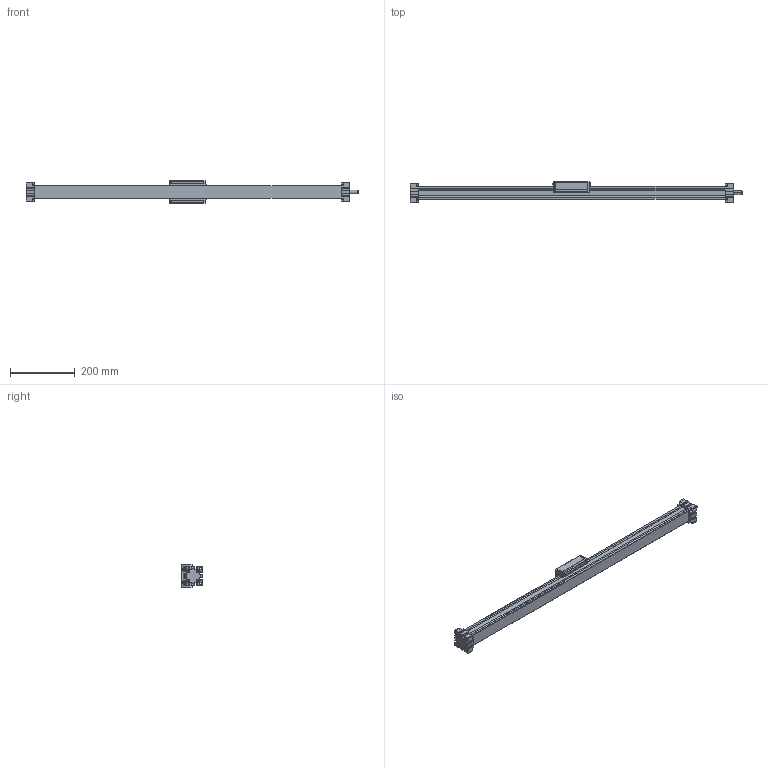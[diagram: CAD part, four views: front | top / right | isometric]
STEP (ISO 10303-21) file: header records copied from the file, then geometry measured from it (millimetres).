
FILE_DESCRIPTION (( 'STEP AP214' ), '1' );
FILE_NAME ('EGTK-40.STEP', '2016-01-14T07:57:24', ( 'admin' ), ( '' ), 'SwSTEP 2.0', 'SolidWorks 2015', '' );
FILE_SCHEMA (( 'AUTOMOTIVE_DESIGN' ));
Length unit declared in the file: millimetre
Products named in the file (6): Kopie von Bahr-EGT-EGK-EGT-40  1  0 0 0  0 0 0  669_EG40 Carriage^EGT(K)40 S0 A0_A; Kopie von Bahr-EGT-EGK-EGT-40  1  0 0 0  0 0 0  669_EGTK End Block 40 (B)^EGT(K)40 S0 A0_EGTK-40 End Block 0-0; Kopie von Bahr-EGT-EGK-EGT-40  1  0 0 0  0 0 0  669_EG40 Extrusion^EGT(K)40 S0 A0; Kopie von Bahr-EGT-EGK-EGT-40  1  0 0 0  0 0 0  669_EGTK End Block 40 (A)^EGT(K)40 S0 A0_EGTK-40 End Block 0-2; EGTK-40; Kopie von Bahr-EGT-EGK-EGT-40  1  0 0 0  0 0 0  669_Cover Band^EGT(K)40 S0 A0
Assembly tree (5 placements, depth 2):
  EGTK-40
    Kopie von Bahr-EGT-EGK-EGT-40  1  0 0 0  0 0 0  669_EGTK End Block 40 (A)^EGT(K)40 S0 A0_EGTK-40 End Block 0-2
    Kopie von Bahr-EGT-EGK-EGT-40  1  0 0 0  0 0 0  669_EG40 Extrusion^EGT(K)40 S0 A0
    Kopie von Bahr-EGT-EGK-EGT-40  1  0 0 0  0 0 0  669_EGTK End Block 40 (B)^EGT(K)40 S0 A0_EGTK-40 End Block 0-0
    Kopie von Bahr-EGT-EGK-EGT-40  1  0 0 0  0 0 0  669_EG40 Carriage^EGT(K)40 S0 A0_A
    Kopie von Bahr-EGT-EGK-EGT-40  1  0 0 0  0 0 0  669_Cover Band^EGT(K)40 S0 A0
Bounding box: 1026 x 64 x 70 mm (x, y, z)
Volume: 1738634.2 mm3; surface area: 275530.2 mm2
Topology: 7 solids, 7 shells, 912 faces, 2596 edges, 1707 vertices
Faces by surface type: plane 664, cylinder 201, cone 31, torus 16
Entity records: 30692 total; most frequent: CARTESIAN_POINT 5341, ORIENTED_EDGE 5192, DIRECTION 4920, EDGE_CURVE 2596, VECTOR 2056, LINE 2056, VERTEX_POINT 1707, AXIS2_PLACEMENT_3D 1432
